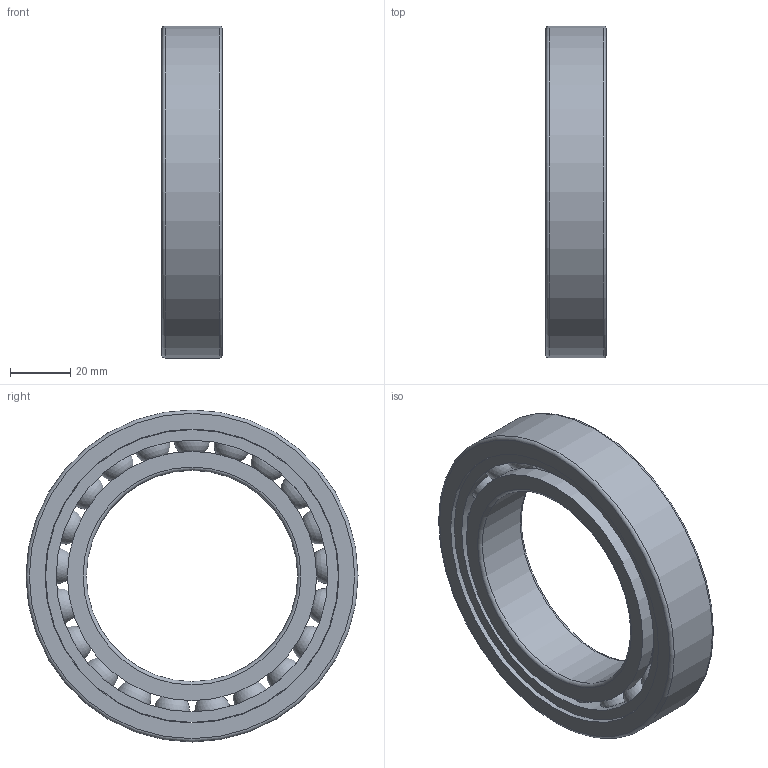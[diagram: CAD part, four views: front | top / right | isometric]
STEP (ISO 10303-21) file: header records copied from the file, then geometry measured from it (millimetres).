
FILE_DESCRIPTION(/* description */ (''),/* implementation_level */ '2;1');
FILE_NAME(/* name */ 'S_6014_TA.step',/* time_stamp */ '2013-03-06T14:43:36+01:00',/* author */ ('Marian'),/* organization */ ('GMN'),/* preprocessor_version */ 'ST-DEVELOPER v11',/* originating_system */ 'SIEMENS UGS NX 6.0',/* authorisation */ '');
FILE_SCHEMA (('CONFIG_CONTROL_DESIGN'));
Length unit declared in the file: millimetre
Products named in the file (1): S_6014_TA
Bounding box: 20 x 110 x 110 mm (x, y, z)
Volume: 85532.1 mm3; surface area: 48546.6 mm2
Topology: 24 solids, 24 shells, 62 faces, 160 edges, 104 vertices
Faces by surface type: cylinder 28, sphere 21, torus 6, plane 6, cone 1
Full cylindrical faces by diameter (mm): 12.106 x21, 70 x1, 82.6 x2, 90.046 x1, 97 x1, 97.4 x1, 110 x1
Entity records: 2052 total; most frequent: CARTESIAN_POINT 922, DIRECTION 166, FACE_BOUND 145, EDGE_LOOP 124, ORIENTED_EDGE 124, VERTEX_POINT 83, AXIS2_PLACEMENT_3D 83, EDGE_CURVE 62
